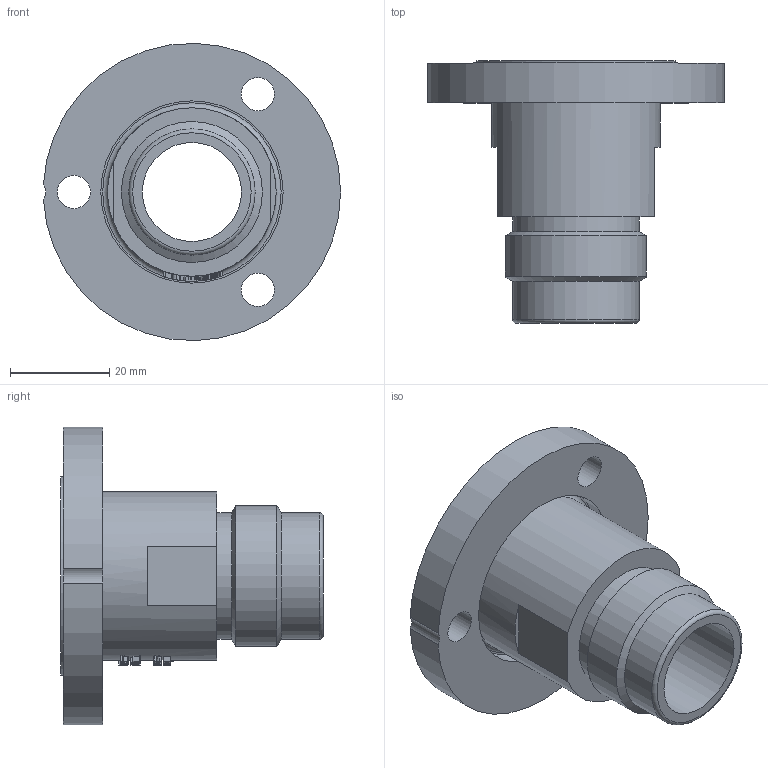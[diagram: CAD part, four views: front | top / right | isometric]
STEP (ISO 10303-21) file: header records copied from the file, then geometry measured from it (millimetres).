
FILE_DESCRIPTION(/* description */ (''),/* implementation_level */ '2;1');
FILE_NAME(/* name */ 'P:\Adapter\Adaptersätze für die Montage der ESK-Regulatoren\A-Adapter.stp',/* time_stamp */ '2019-04-01T10:31:01+02:00',/* author */ ('neufeld'),/* organization */ (''),/* preprocessor_version */ 'ST-DEVELOPER v17',/* originating_system */ 'Autodesk Inventor 2019',/* authorisation */ '');
FILE_SCHEMA (('AUTOMOTIVE_DESIGN { 1 0 10303 214 3 1 1 }'));
Length unit declared in the file: millimetre
Products named in the file (1): A-Adapter_AG-Kunde
Bounding box: 59.97 x 53 x 59.98 mm (x, y, z)
Volume: 33289.7 mm3; surface area: 16962.9 mm2
Topology: 1 solids, 1 shells, 642 faces, 1783 edges, 1195 vertices
Faces by surface type: plane 414, bspline 162, cylinder 61, cone 3, torus 2
Full cylindrical faces by diameter (mm): 6.7 x3, 20 x1, 25.5 x2, 26 x1, 28.45 x1, 34 x1, 36.8 x1, 40 x1, 40.2 x1
Entity records: 26532 total; most frequent: CARTESIAN_POINT 10459, ORIENTED_EDGE 3566, DIRECTION 3026, EDGE_CURVE 1783, VERTEX_POINT 1195, AXIS2_PLACEMENT_3D 1086, LINE 854, VECTOR 854
